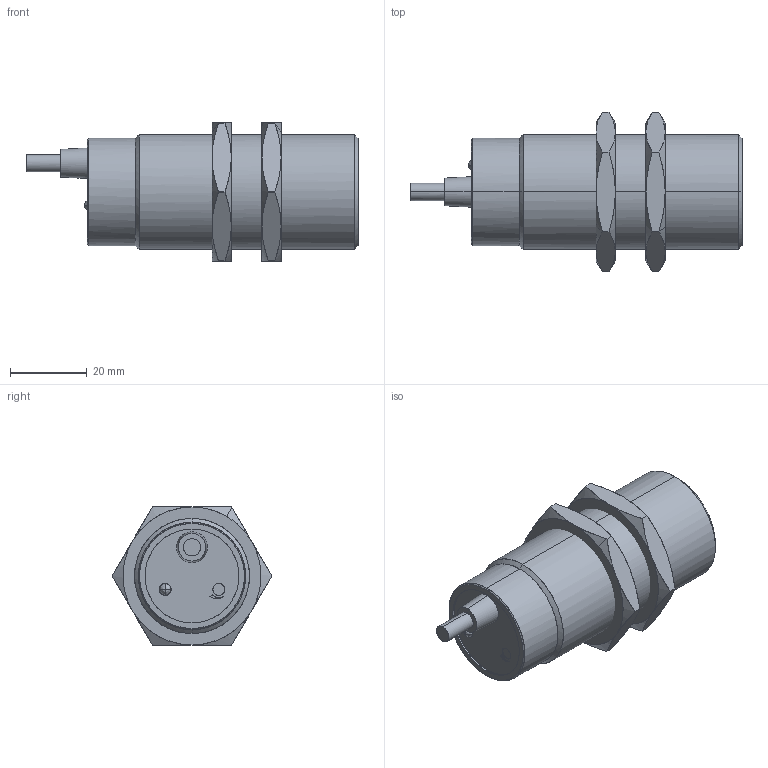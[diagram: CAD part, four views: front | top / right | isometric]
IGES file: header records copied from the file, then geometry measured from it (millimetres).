
Start section: Comment
Global section: file name: CFAM_30_Pot_Kabel.igs; native system:  By Spatial Corp.; preprocessor: XPlus GENERIC/IGES 3.0; author: Author; organization: Title; date: 20040804.171404; units: inch
Bounding box: 86.6 x 41.56 x 36 mm (x, y, z)
Surface area: 11996.6 mm2 (no closed solid volume)
Topology: 0 solids, 0 shells, 108 faces, 482 edges, 478 vertices
Faces by surface type: bspline 108
